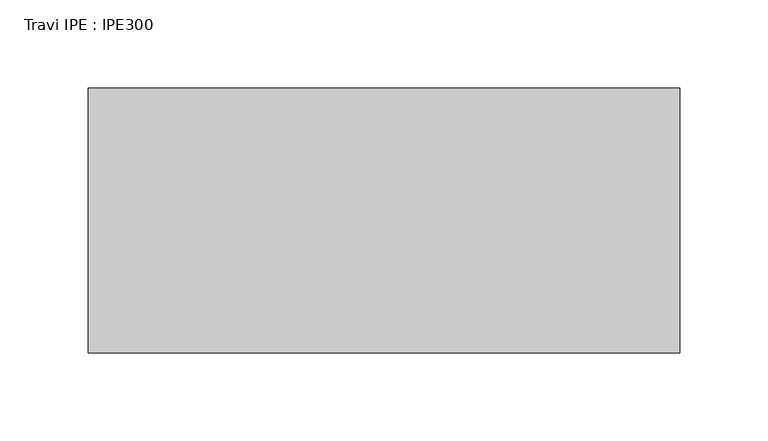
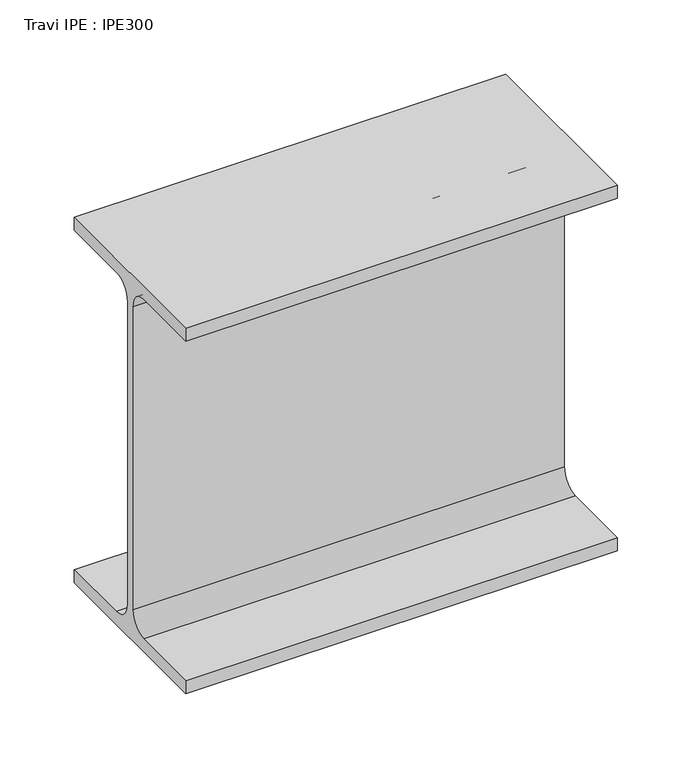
"""IFC4 building model written with IfcOpenShell, lengths in millimetres: beam geometry, Travi IPE : IPE300."""

from ifc_helpers import new_model, si_unit, point, frame, frame_2d, origin, place, context, project, spatial, polyline, circle_curve, trimmed, segment, composite_curve, outline, extrude, source, transform, mapped, element, save


def travi_ipe_ipe300_fd4749f7(model_context):
    return source(origin(), model_context, "Body", "SweptSolid", [
        extrude(outline(composite_curve([segment(polyline([(75.0, -139.3), (75.0, -150.0), (-75.0, -150.0), (-75.0, -139.3), (-18.55, -139.3)]), True, "CONTINUOUS"), segment(trimmed(circle_curve(frame_2d((-18.55, -124.3)), 15.0), [point((-18.55, -139.3))], [point((-3.55, -124.3))], True, "CARTESIAN"), True, "CONTINUOUS"), segment(polyline([(-3.55, -124.3), (-3.55, 124.3)]), True, "CONTINUOUS"), segment(trimmed(circle_curve(frame_2d((-18.55, 124.3)), 15.0), [point((-3.55, 124.3))], [point((-18.55, 139.3))], True, "CARTESIAN"), True, "CONTINUOUS"), segment(polyline([(-18.55, 139.3), (-75.0, 139.3), (-75.0, 150.0), (75.0, 150.0), (75.0, 139.3), (18.55, 139.3)]), True, "CONTINUOUS"), segment(trimmed(circle_curve(frame_2d((18.55, 124.3)), 15.0), [point((18.55, 139.3))], [point((3.55, 124.3))], True, "CARTESIAN"), True, "CONTINUOUS"), segment(polyline([(3.55, 124.3), (3.55, -124.3)]), True, "CONTINUOUS"), segment(trimmed(circle_curve(frame_2d((18.55, -124.3)), 15.0), [point((3.55, -124.3))], [point((18.55, -139.3))], True, "CARTESIAN"), True, "CONTINUOUS"), segment(polyline([(18.55, -139.3), (75.0, -139.3)]), True, "CONTINUOUS")], self_intersect=False)), frame((-167.5, 0.0, 0.0), z_axis=(1.0, 0.0, 0.0), x_axis=(0.0, 1.0, 0.0)), (0.0, 0.0, 1.0), 335.0),
    ])


if __name__ == "__main__":
    model = new_model("IFC4")
    model_context = context("Model", 3, world=origin())
    ifc_project = project(units=[si_unit("LENGTHUNIT", "METRE", prefix="MILLI")], contexts=[model_context])
    site = spatial("IfcSite", under=ifc_project)
    building = spatial("IfcBuilding", under=site)
    placement = place(None, origin())
    travi_ipe_ipe300_shape = travi_ipe_ipe300_fd4749f7(model_context)
    element("IfcBeam", 1, ObjectType="Travi IPE : IPE300", at=placement, inside=building, context=model_context, shape_type="MappedRepresentation", body=[
        mapped(travi_ipe_ipe300_shape, transform((0.0, 0.0, 0.0), x_axis=(1.0, 0.0, 0.0), y_axis=(0.0, 1.0, 0.0), z_axis=(0.0, 0.0, 1.0))),
    ])
    save(model, "model.ifc")
